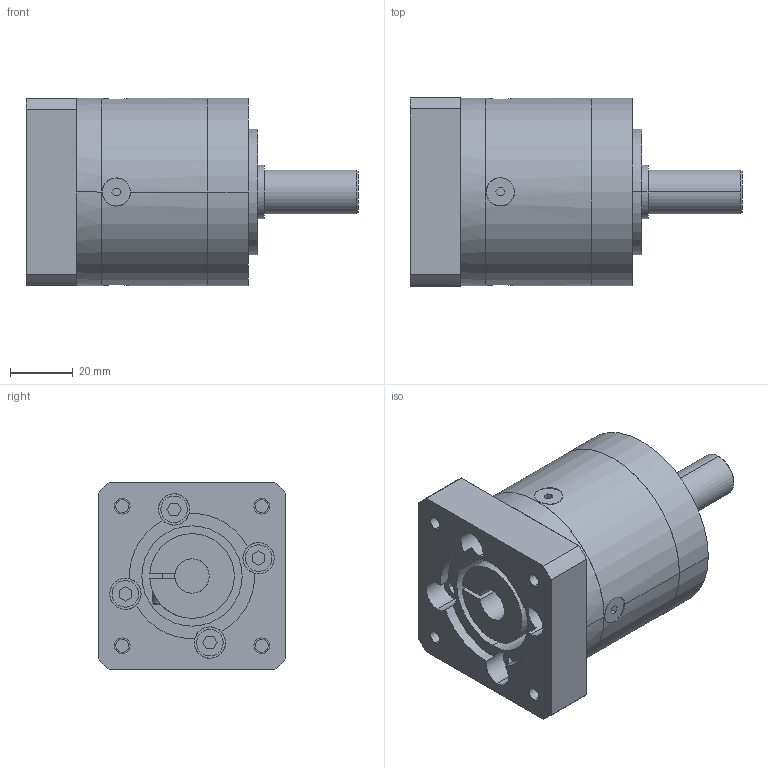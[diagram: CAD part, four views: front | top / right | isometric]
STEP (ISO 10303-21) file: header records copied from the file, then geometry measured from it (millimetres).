
FILE_DESCRIPTION((''),'2;1');
FILE_NAME('MB_PLE_MASTER','2019-07-12T',('agw'),(''),'CREO PARAMETRIC BY PTC INC, 2015290','CREO PARAMETRIC BY PTC INC, 2015290','');
FILE_SCHEMA(('AUTOMOTIVE_DESIGN { 1 0 10303 214 1 1 1 1 }'));
Length unit declared in the file: millimetre
Products named in the file (1): MB_PLE_MASTER
Bounding box: 106 x 60 x 60 mm (x, y, z)
Volume: 207776.6 mm3; surface area: 31578.6 mm2
Topology: 1 solids, 9 shells, 225 faces, 537 edges, 352 vertices
Faces by surface type: plane 129, cylinder 88, cone 6, torus 2
Entity records: 7432 total; most frequent: CARTESIAN_POINT 1342, DIRECTION 1165, ORIENTED_EDGE 1042, EDGE_CURVE 537, AXIS2_PLACEMENT_3D 427, VERTEX_POINT 352, VECTOR 311, LINE 311
